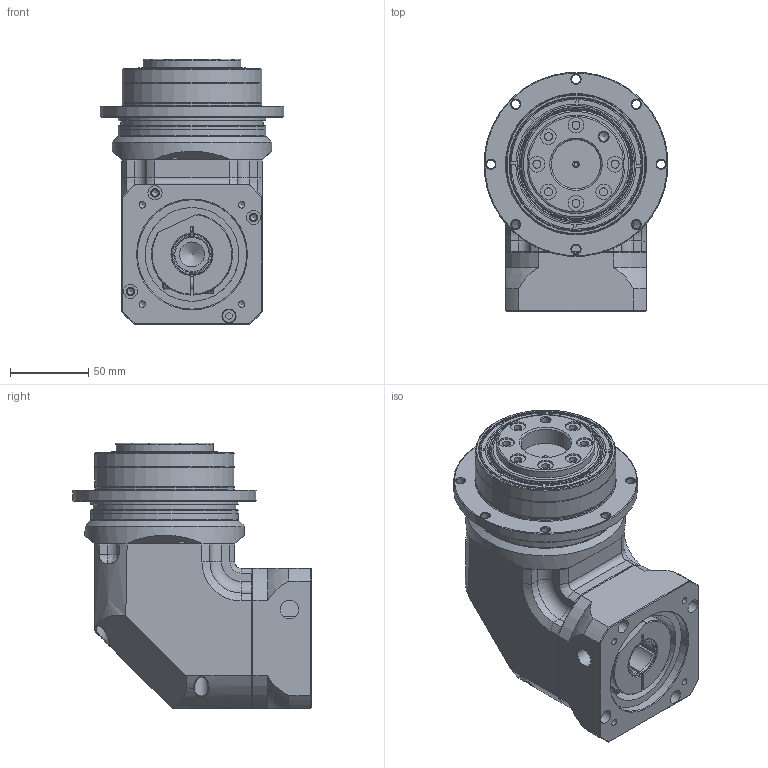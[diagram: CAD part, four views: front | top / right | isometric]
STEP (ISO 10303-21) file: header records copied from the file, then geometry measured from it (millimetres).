
FILE_DESCRIPTION(/* description */ (''),/* implementation_level */ '2;1');
FILE_NAME(/* name */ 'TDR090-L1-19-70-90-M6-49-6.stp',/* time_stamp */ '2021-04-08T16:04:19+08:00',/* author */ (''),/* organization */ (''),/* preprocessor_version */ 'ST-DEVELOPER v16',/* originating_system */ 'SIEMENS PLM Software NX 10.0',/* authorisation */ '');
FILE_SCHEMA (('CONFIG_CONTROL_DESIGN'));
Length unit declared in the file: millimetre
Products named in the file (1): _model479
Bounding box: 117.55 x 152.78 x 170 mm (x, y, z)
Volume: 1376190.3 mm3; surface area: 208167.4 mm2
Topology: 12 solids, 12 shells, 701 faces, 1632 edges, 1036 vertices
Faces by surface type: plane 269, cylinder 236, cone 138, torus 40, bspline 18
Full cylindrical faces by diameter (mm): 2.5 x1, 4.2 x20, 5 x1, 5.1 x7, 5.5 x24, 6 x1, 6.8 x1, 8 x1, 8.5 x2, 9 x8, 9.5 x8, 10 x7, 12 x2, 13 x2, 13.5 x1, 22 x1, 23 x1, 28.6 x1, 29.2 x1, 30 x2, 31.5 x1, 33 x1, 33.54 x1, 34.6 x1, 41 x1, 44 x1, 45 x2, 60 x1, 62 x2, 63 x1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
Entity records: 19908 total; most frequent: CARTESIAN_POINT 4858, DIRECTION 3214, ORIENTED_EDGE 2644, AXIS2_PLACEMENT_3D 1360, EDGE_CURVE 1322, EDGE_LOOP 1086, VERTEX_POINT 988, FACE_BOUND 730
